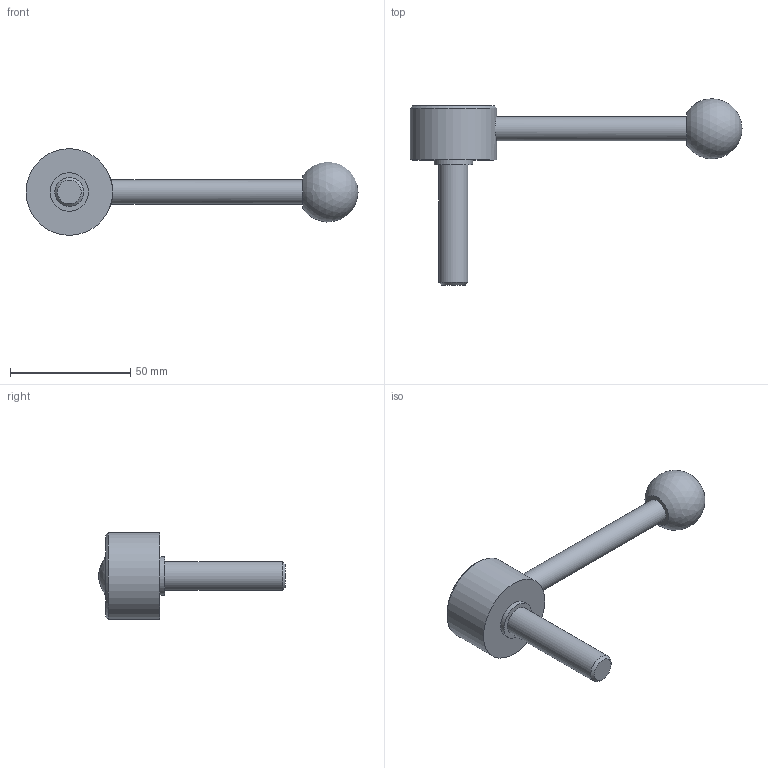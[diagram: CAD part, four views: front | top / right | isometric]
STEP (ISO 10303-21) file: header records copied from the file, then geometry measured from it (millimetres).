
FILE_DESCRIPTION( ( 'STEP AP203' ), '1' );
FILE_NAME( 'C:/Temp/Ganter_Step_05_03_2020/data/2_1/gn_125/gn_125_ms/gn_125_ms_d/Flat Adjustable Lever GN 125-36-M12-50-D.stp', '2020-03-05T11:00:49', ( 'License CC BY-ND 4.0' ), ( 'CADENAS' ), ' ', 'PARTsolutions', ' ' );
FILE_SCHEMA( ( 'CONFIG_CONTROL_DESIGN' ) );
Length unit declared in the file: millimetre
Products named in the file (1): _Flat Adjustable Lever GN 125-36-M12-50-D
Bounding box: 138 x 77.38 x 36 mm (x, y, z)
Volume: 43000.6 mm3; surface area: 10779.5 mm2
Topology: 1 solids, 1 shells, 14 faces, 23 edges, 15 vertices
Faces by surface type: plane 6, cylinder 5, cone 2, sphere 1
Full cylindrical faces by diameter (mm): 10 x1, 12 x1, 16 x1, 26 x1, 36 x1
Entity records: 392 total; most frequent: CARTESIAN_POINT 115, DIRECTION 54, AXIS2_PLACEMENT_3D 27, EDGE_LOOP 26, ORIENTED_EDGE 26, FACE_OUTER_BOUND 19, ADVANCED_FACE 14, VERTEX_POINT 14
